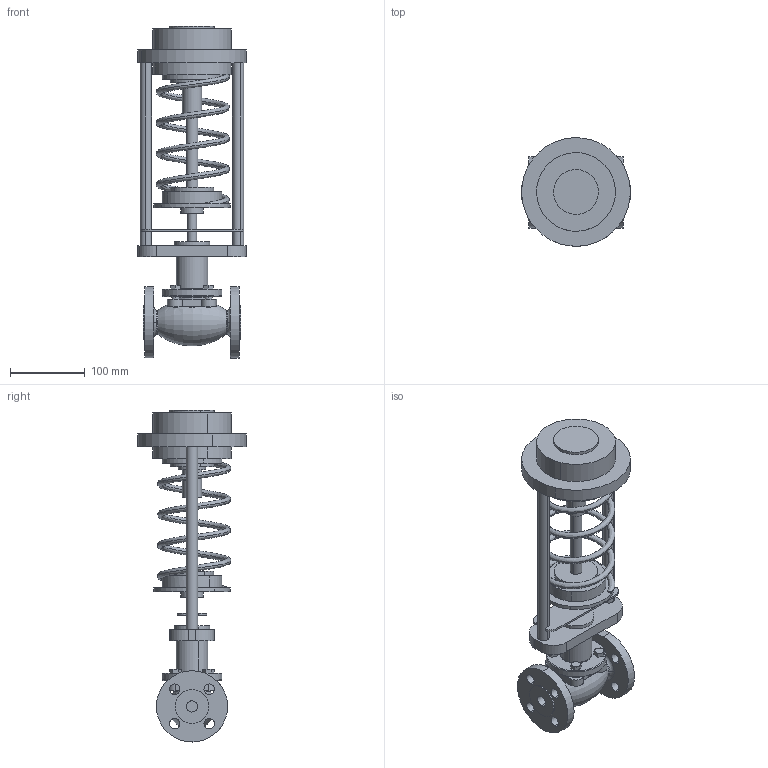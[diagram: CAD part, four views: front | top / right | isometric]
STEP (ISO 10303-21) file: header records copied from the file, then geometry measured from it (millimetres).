
FILE_DESCRIPTION (( 'STEP AP214' ), '1' );
FILE_NAME ('RDT-S, RDT-B DN-15.STEP', '2025-12-12T08:00:06', ( '' ), ( '' ), 'SwSTEP 2.0', 'SolidWorks 2023', '' );
FILE_SCHEMA (( 'AUTOMOTIVE_DESIGN' ));
Length unit declared in the file: millimetre
Products named in the file (4): RDT DN-15(______)_1.stp; ___ 1.stp; RDT-S, RDT-B DN-15; RDT-S, RDT-B DN-15.stp
Assembly tree (3 placements, depth 3):
  RDT-S, RDT-B DN-15
    RDT-S, RDT-B DN-15.stp
      ___ 1.stp
      RDT DN-15(______)_1.stp
Bounding box: 145 x 144.86 x 443 mm (x, y, z)
Volume: 1710191.7 mm3; surface area: 250740.3 mm2
Topology: 2 solids, 3 shells, 238 faces, 595 edges, 388 vertices
Faces by surface type: cylinder 106, plane 92, cone 30, torus 8, bspline 2
Entity records: 19981 total; most frequent: CARTESIAN_POINT 13964, DIRECTION 1298, ORIENTED_EDGE 1190, EDGE_CURVE 595, AXIS2_PLACEMENT_3D 525, VERTEX_POINT 388, EDGE_LOOP 301, CIRCLE 282
